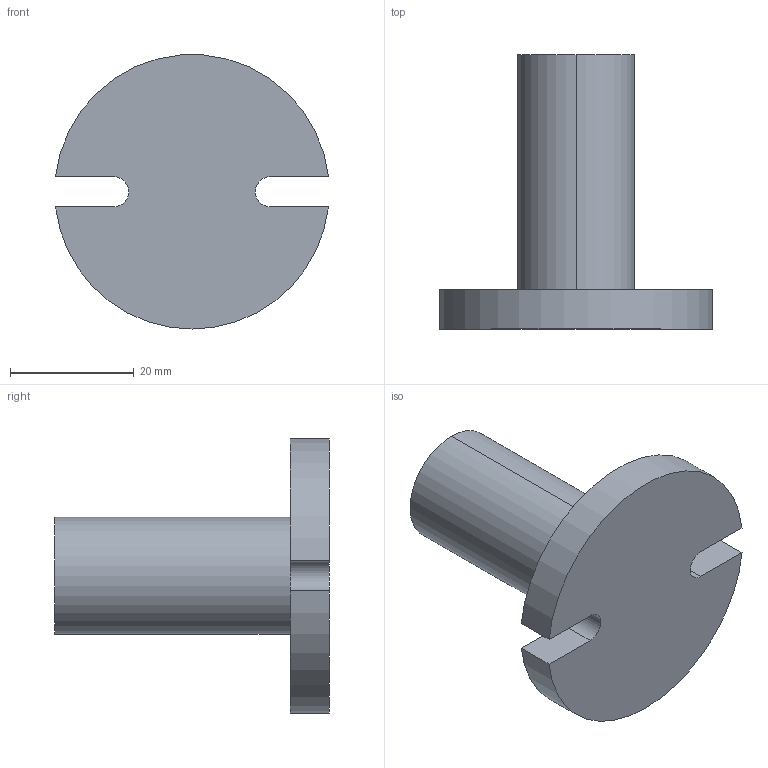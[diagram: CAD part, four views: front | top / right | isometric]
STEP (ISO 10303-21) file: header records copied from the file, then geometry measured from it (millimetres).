
FILE_DESCRIPTION (( 'STEP AP214' ), '1' );
FILE_NAME ('RTI-PGM-75-175R.STEP', '2013-10-22T14:36:13', ( 'user' ), ( '' ), 'SwSTEP 2.0', 'SolidWorks 2009', '' );
FILE_SCHEMA (( 'AUTOMOTIVE_DESIGN' ));
Length unit declared in the file: inch
Products named in the file (1): RTI-PGM-75-175R
Bounding box: 44.18 x 44.45 x 44.37 mm (x, y, z)
Volume: 19911.6 mm3; surface area: 6344.3 mm2
Topology: 1 solids, 1 shells, 315 faces, 819 edges, 546 vertices
Faces by surface type: plane 208, bspline 100, cylinder 7
Entity records: 19108 total; most frequent: CARTESIAN_POINT 8245, ORIENTED_EDGE 1638, DIRECTION 1065, EDGE_CURVE 819, LINE 605, VECTOR 605, VERTEX_POINT 546, EDGE_LOOP 355
